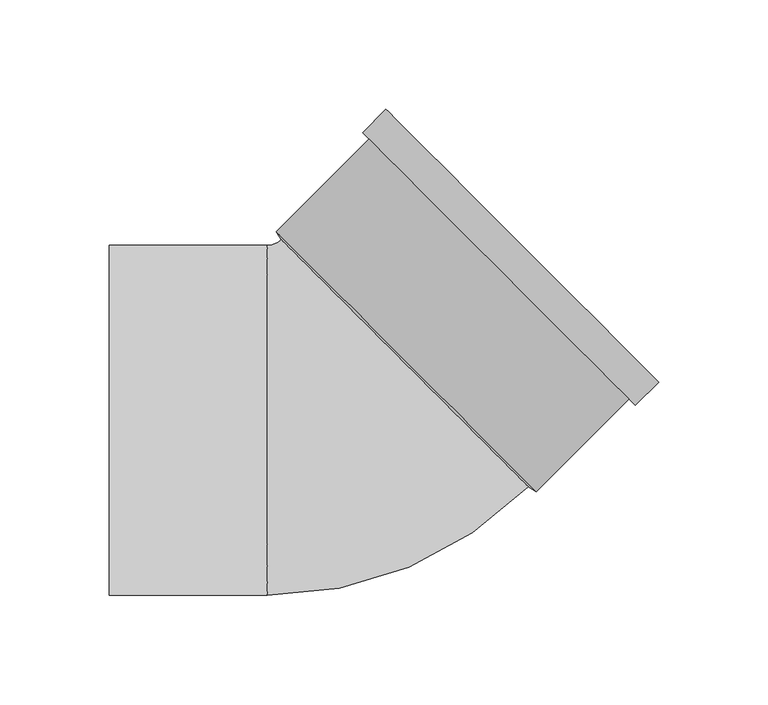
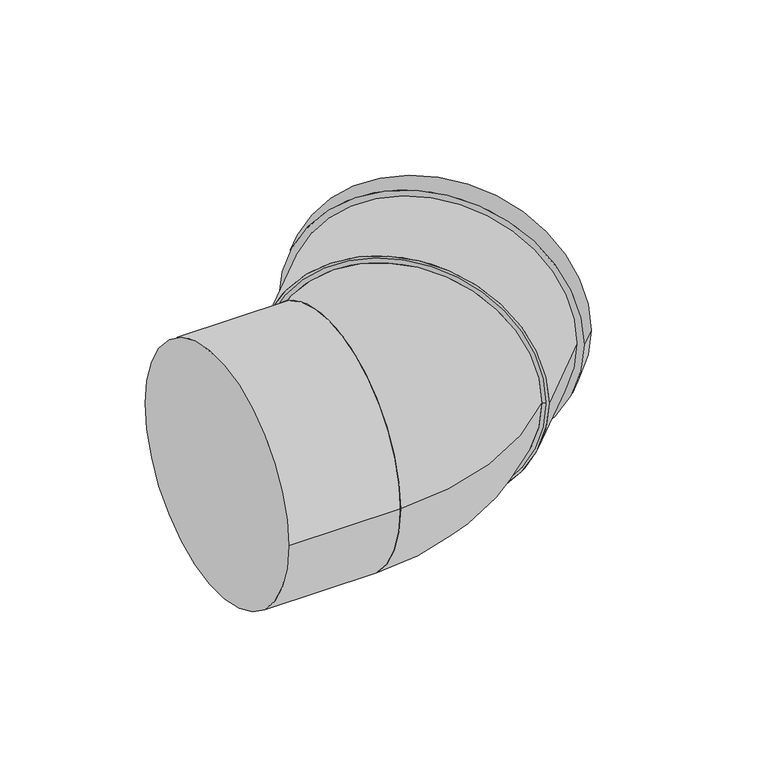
"""IFC4 building model written with IfcOpenShell, lengths in millimetres: pipe fitting geometry, Superdrain HT bend : Superdrain HT Bend."""

from ifc_helpers import new_model, si_unit, point, frame, origin, origin_2d, place, context, project, spatial, polyline, circle_curve, ellipse_curve, trimmed, segment, composite_curve, outline, extrude, source, transform, mapped, element, save
from ifc_brep_helpers import plane_surface, revolved_surface, advanced_brep


def pipe_fitting_c8df41f9(model_context):
    return source(origin(), model_context, "Body", "SolidModel", [
        advanced_brep(
        [(82.6607827, -30.4763023, 0.0), (-30.4763023, 82.6607827, 0.0), (-36.9, -80.0, 0.0), (-36.9, 80.0, 0.0)],
        [
            (0, 1, circle_curve(frame((26.0922402, 26.0922402, 0.0), z_axis=(0.7071067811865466, 0.7071067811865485, 0.0), x_axis=(-0.7071067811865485, 0.7071067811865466, 0.0)), 80.0)),
            (1, 0, circle_curve(frame((26.0922402, 26.0922402, 0.0), z_axis=(0.7071067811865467, 0.7071067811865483, 0.0), x_axis=(-0.7071067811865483, 0.7071067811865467, 0.0)), 80.0)),
            (2, 3, circle_curve(frame((-36.9, 0.0, 0.0), z_axis=(-1.0, 0.0, 0.0), x_axis=(0.0, 1.0, 0.0)), 80.0)),
            (3, 2, circle_curve(frame((-36.9, 0.0, 0.0), z_axis=(-1.0, 0.0, 0.0), x_axis=(0.0, 1.0, 0.0)), 80.0)),
            (3, 1, circle_curve(frame((-36.9, 89.0844805, 0.0), z_axis=(0.0, 0.0, 1.0), x_axis=(1.0, 0.0, 0.0)), 9.0844805)),
            (0, 2, circle_curve(frame((-36.9, 89.0844805, 0.0), z_axis=(0.0, 0.0, -1.0), x_axis=(1.0, 0.0, 0.0)), 169.0844805)),
        ],
        [
            plane_surface(frame((26.0922402, 26.0922402, 0.0), z_axis=(0.7071067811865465, 0.7071067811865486, 0.0), x_axis=(0.0, 0.0, -1.0))),
            plane_surface(frame((-36.9, 0.0, 0.0), z_axis=(-1.0, 0.0, 0.0), x_axis=(0.0, 0.0, -1.0))),
            revolved_surface(trimmed(ellipse_curve(frame((52.1844805, 89.0844805, 0.0), z_axis=(0.0, -1.0, 0.0), x_axis=(-1.0, 0.0, 0.0)), 80.0, 80.0), [point((-27.8155195, 89.0844805, 0.0))], [point((132.1844805, 89.0844805, 0.0))], True, "CARTESIAN"), (-36.9, 89.0844805, 0.0), (0.0, 0.0, 1.0)),
            revolved_surface(trimmed(ellipse_curve(frame((52.1844805, 89.0844805, 0.0), z_axis=(0.0, -1.0, 0.0), x_axis=(-1.0, 0.0, 0.0)), 80.0, 80.0), [point((132.1844805, 89.0844805, 0.0))], [point((-27.8155195, 89.0844805, 0.0))], True, "CARTESIAN"), (-36.9, 89.0844805, 0.0), (0.0, 0.0, 1.0)),
        ],
        [
            (0, [[1, 2]]),
            (1, [[3, 4]]),
            (2, [[-4, 5, -1, 6]]),
            (3, [[-3, -6, -2, -5]]),
        ],
    ),
        extrude(outline(composite_curve([segment(trimmed(circle_curve(origin_2d(), 84.0), [point((0.0, 84.0))], [point((0.0, -84.0))], False, "CARTESIAN"), True, "CONTINUOUS"), segment(trimmed(circle_curve(origin_2d(), 84.0), [point((0.0, -84.0))], [point((0.0, 84.0))], False, "CARTESIAN"), True, "CONTINUOUS")], self_intersect=False), holes=[composite_curve([segment(trimmed(circle_curve(origin_2d(), 80.0), [point((0.0, 80.0))], [point((0.0, -80.0))], True, "CARTESIAN"), True, "CONTINUOUS"), segment(trimmed(circle_curve(origin_2d(), 80.0), [point((0.0, -80.0))], [point((0.0, 80.0))], True, "CARTESIAN"), True, "CONTINUOUS")], self_intersect=False)]), frame((26.799347, 26.799347, 0.0), z_axis=(0.707106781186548, 0.707106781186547, 0.0), x_axis=(0.0, 0.0, 1.0)), (0.0, 0.0, 1.0), 75.0),
        extrude(outline(composite_curve([segment(trimmed(circle_curve(origin_2d(), 88.2), [point((0.0, -88.2))], [point((0.0, 88.2))], False, "CARTESIAN"), True, "CONTINUOUS"), segment(trimmed(circle_curve(origin_2d(), 88.2), [point((0.0, 88.2))], [point((0.0, -88.2))], False, "CARTESIAN"), True, "CONTINUOUS")], self_intersect=False), holes=[composite_curve([segment(trimmed(circle_curve(origin_2d(), 80.0), [point((0.0, -80.0))], [point((0.0, 80.0))], True, "CARTESIAN"), True, "CONTINUOUS"), segment(trimmed(circle_curve(origin_2d(), 80.0), [point((0.0, 80.0))], [point((0.0, -80.0))], True, "CARTESIAN"), True, "CONTINUOUS")], self_intersect=False)]), frame((69.2257539, 69.2257539, 0.0), z_axis=(0.7071067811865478, 0.7071067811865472, 0.0), x_axis=(0.0, 0.0, 1.0)), (0.0, 0.0, 1.0), 15.0),
        advanced_brep(
        [(86.1963166, -32.5976226, 0.0), (-32.5976226, 86.1963166, 0.0), (82.6607827, -30.4763023, 0.0), (-30.4763023, 82.6607827, 0.0)],
        [
            (0, 1, circle_curve(frame((26.799347, 26.799347, 0.0), z_axis=(0.7071067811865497, 0.7071067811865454, 0.0), x_axis=(0.7071067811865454, -0.7071067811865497, 0.0)), 84.0)),
            (1, 0, circle_curve(frame((26.799347, 26.799347, 0.0), z_axis=(0.7071067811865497, 0.7071067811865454, 0.0), x_axis=(-0.7071067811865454, 0.7071067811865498, 0.0)), 84.0)),
            (2, 3, circle_curve(frame((26.0922402, 26.0922402, 0.0), z_axis=(-0.7071067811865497, -0.7071067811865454, 0.0), x_axis=(-0.7071067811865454, 0.7071067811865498, 0.0)), 80.0)),
            (3, 2, circle_curve(frame((26.0922402, 26.0922402, 0.0), z_axis=(-0.7071067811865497, -0.7071067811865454, 0.0), x_axis=(0.7071067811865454, -0.7071067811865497, 0.0)), 80.0)),
            (3, 1),
            (0, 2),
        ],
        [
            plane_surface(frame((26.799347, 26.799347, 0.0), z_axis=(0.7071067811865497, 0.7071067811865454, 0.0), x_axis=(0.0, 0.0, -1.0))),
            plane_surface(frame((26.0922402, 26.0922402, 0.0), z_axis=(-0.7071067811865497, -0.7071067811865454, 0.0), x_axis=(0.0, 0.0, -1.0))),
            revolved_surface(polyline([(-30.47630219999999, 82.66078259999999, 0.0), (-32.59762260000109, 86.19631660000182, 0.0)]), (11.9501046, 11.9501046, 0.0), (0.7071067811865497, 0.7071067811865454, 0.0)),
            revolved_surface(polyline([(82.66078259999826, -30.47630219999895, 0.0), (86.1963166, -32.597622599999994, 0.0)]), (11.9501046, 11.9501046, 0.0), (0.7071067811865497, 0.7071067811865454, 0.0)),
        ],
        [
            (0, [[1, 2]]),
            (1, [[3, 4]]),
            (2, [[-4, 5, -1, 6]]),
            (3, [[-3, -6, -2, -5]]),
        ],
    ),
        extrude(outline(composite_curve([segment(trimmed(circle_curve(origin_2d(), 80.0), [point((-80.0, 0.0))], [point((80.0, 0.0))], False, "CARTESIAN"), True, "CONTINUOUS"), segment(trimmed(circle_curve(origin_2d(), 80.0), [point((80.0, 0.0))], [point((-80.0, 0.0))], False, "CARTESIAN"), True, "CONTINUOUS")], self_intersect=False)), frame((-109.0, 0.0, 0.0), z_axis=(1.0, 0.0, 0.0), x_axis=(0.0, 1.0, 0.0)), (0.0, 0.0, 1.0), 72.1),
    ])


if __name__ == "__main__":
    model = new_model("IFC4")
    model_context = context("Model", 3, world=origin())
    ifc_project = project(units=[si_unit("LENGTHUNIT", "METRE", prefix="MILLI")], contexts=[model_context])
    site = spatial("IfcSite", under=ifc_project)
    building = spatial("IfcBuilding", under=site)
    placement = place(None, origin())
    pipe_fitting_shape = pipe_fitting_c8df41f9(model_context)
    element("IfcPipeFitting", 1, ObjectType="Superdrain HT bend : Superdrain HT Bend", at=placement, inside=building, context=model_context, shape_type="MappedRepresentation", body=[
        mapped(pipe_fitting_shape, transform((0.0, 0.0, 0.0), x_axis=(1.0, 0.0, 0.0), y_axis=(0.0, 1.0, 0.0), z_axis=(0.0, 0.0, 1.0))),
    ])
    save(model, "model.ifc")
